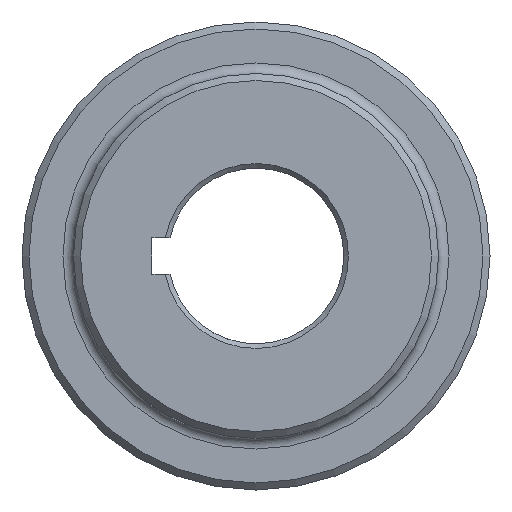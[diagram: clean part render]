
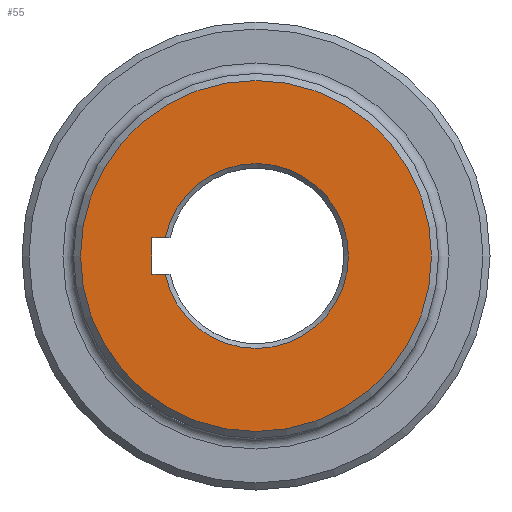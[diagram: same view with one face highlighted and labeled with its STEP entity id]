
A CAD part, left-side view. The second image highlights one B-rep face of the part: STEP entity #55.
In plain terms, the highlighted planar face has unit normal (-1, 0, 0).
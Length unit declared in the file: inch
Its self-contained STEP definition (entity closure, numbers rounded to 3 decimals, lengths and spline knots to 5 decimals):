
#55 = ADVANCED_FACE ( 'NONE', ( #2293, #1870 ), #200, .F. ) ;
#64 = VECTOR ( 'NONE', #1004, 39.37008 ) ;
#82 = CARTESIAN_POINT ( 'NONE',  ( 0., 0.7747, 0.156 ) ) ;
#107 = VECTOR ( 'NONE', #968, 39.37008 ) ;
#108 = VERTEX_POINT ( 'NONE', #82 ) ;
#109 = LINE ( 'NONE', #269, #64 ) ;
#116 = CARTESIAN_POINT ( 'NONE',  ( 0., 0.7747, -0.156 ) ) ;
#189 = AXIS2_PLACEMENT_3D ( 'NONE', #234, #899, #276 ) ;
#200 = PLANE ( 'NONE',  #189 ) ;
#234 = CARTESIAN_POINT ( 'NONE',  ( 0., 0., 0. ) ) ;
#262 = ORIENTED_EDGE ( 'NONE', *, *, #966, .F. ) ;
#269 = CARTESIAN_POINT ( 'NONE',  ( 0., 0.88975, -0.156 ) ) ;
#276 = DIRECTION ( 'NONE',  ( 0., 0., -1. ) ) ;
#286 = CARTESIAN_POINT ( 'NONE',  ( 0., 0.88975, -0.156 ) ) ;
#305 = VECTOR ( 'NONE', #848, 39.37008 ) ;
#355 = AXIS2_PLACEMENT_3D ( 'NONE', #2031, #2029, #2328 ) ;
#436 = EDGE_CURVE ( 'NONE', #1682, #1825, #2197, .T. ) ;
#474 = ORIENTED_EDGE ( 'NONE', *, *, #1261, .T. ) ;
#531 = LINE ( 'NONE', #1895, #305 ) ;
#623 = EDGE_LOOP ( 'NONE', ( #2278, #2394, #2258, #262 ) ) ;
#679 = CARTESIAN_POINT ( 'NONE',  ( 0., 0., -1.5 ) ) ;
#785 = DIRECTION ( 'NONE',  ( 0., 0., -1. ) ) ;
#848 = DIRECTION ( 'NONE',  ( 0., 1., 0. ) ) ;
#899 = DIRECTION ( 'NONE',  ( 1., 0., 0. ) ) ;
#966 = EDGE_CURVE ( 'NONE', #1436, #1682, #109, .T. ) ;
#968 = DIRECTION ( 'NONE',  ( 0., -1., 0. ) ) ;
#971 = AXIS2_PLACEMENT_3D ( 'NONE', #1859, #2058, #785 ) ;
#1004 = DIRECTION ( 'NONE',  ( 0., 0., -1. ) ) ;
#1107 = CARTESIAN_POINT ( 'NONE',  ( 0., 0.88975, 0.156 ) ) ;
#1112 = EDGE_LOOP ( 'NONE', ( #474 ) ) ;
#1261 = EDGE_CURVE ( 'NONE', #1615, #1615, #1403, .T. ) ;
#1293 = CIRCLE ( 'NONE', #355, 0.79025 ) ;
#1362 = CARTESIAN_POINT ( 'NONE',  ( 0., 0., -0.156 ) ) ;
#1403 = CIRCLE ( 'NONE', #971, 1.5 ) ;
#1436 = VERTEX_POINT ( 'NONE', #1107 ) ;
#1490 = EDGE_CURVE ( 'NONE', #108, #1436, #531, .T. ) ;
#1615 = VERTEX_POINT ( 'NONE', #679 ) ;
#1682 = VERTEX_POINT ( 'NONE', #286 ) ;
#1825 = VERTEX_POINT ( 'NONE', #116 ) ;
#1859 = CARTESIAN_POINT ( 'NONE',  ( 0., 0., 0. ) ) ;
#1870 = FACE_BOUND ( 'NONE', #623, .T. ) ;
#1895 = CARTESIAN_POINT ( 'NONE',  ( 0., 0., 0.156 ) ) ;
#2029 = DIRECTION ( 'NONE',  ( 1., 0., 0. ) ) ;
#2031 = CARTESIAN_POINT ( 'NONE',  ( 0., 0., 0. ) ) ;
#2058 = DIRECTION ( 'NONE',  ( -1., 0., 0. ) ) ;
#2197 = LINE ( 'NONE', #1362, #107 ) ;
#2252 = EDGE_CURVE ( 'NONE', #108, #1825, #1293, .T. ) ;
#2258 = ORIENTED_EDGE ( 'NONE', *, *, #436, .F. ) ;
#2278 = ORIENTED_EDGE ( 'NONE', *, *, #1490, .F. ) ;
#2293 = FACE_OUTER_BOUND ( 'NONE', #1112, .T. ) ;
#2328 = DIRECTION ( 'NONE',  ( 0., 0., -1. ) ) ;
#2394 = ORIENTED_EDGE ( 'NONE', *, *, #2252, .T. ) ;
